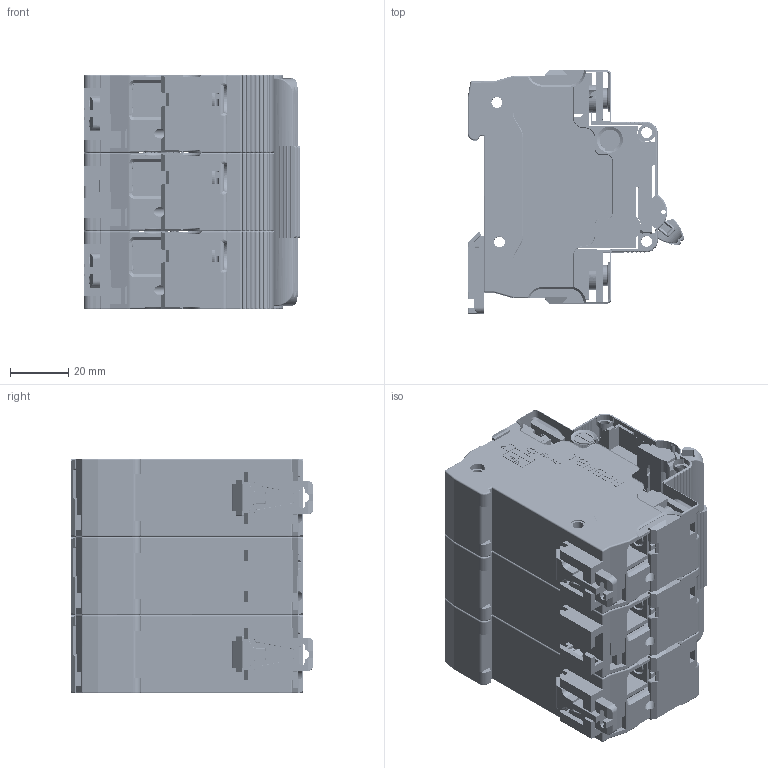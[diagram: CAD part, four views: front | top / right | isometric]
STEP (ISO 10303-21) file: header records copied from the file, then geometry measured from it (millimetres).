
FILE_DESCRIPTION (( 'STEP AP214' ), '1' );
FILE_NAME ('TGB1N-125 3P.STEP', '2025-12-15T13:42:08', ( '' ), ( '' ), 'SwSTEP 2.0', 'SolidWorks 2024', '' );
FILE_SCHEMA (( 'AUTOMOTIVE_DESIGN' ));
Length unit declared in the file: millimetre
Products named in the file (8): TGB1N-125 3P.stp; TGB1N-1253P_SW0001_4.stp; TGB1N-1253P_SW0001_2.stp; TGB1N-125 3P; TGB1N-1253P_SW0001_6.stp; TGB1N-1253P_SW0001_1.stp; TGB1N-1253P_SW0001_5.stp; TGB1N-1253P_SW0001_3.stp
Assembly tree (7 placements, depth 3):
  TGB1N-125 3P
    TGB1N-125 3P.stp
      TGB1N-1253P_SW0001_1.stp
      TGB1N-1253P_SW0001_2.stp
      TGB1N-1253P_SW0001_3.stp
      TGB1N-1253P_SW0001_4.stp
      TGB1N-1253P_SW0001_5.stp
      TGB1N-1253P_SW0001_6.stp
Bounding box: 74.69 x 83.73 x 81 mm (x, y, z)
Volume: 3283.5 mm3; surface area: 125851.3 mm2
Topology: 5 solids, 6 shells, 9203 faces, 25840 edges, 16632 vertices
Faces by surface type: plane 6578, cylinder 1563, bspline 496, torus 286, cone 251, sphere 29
Entity records: 316091 total; most frequent: CARTESIAN_POINT 85058, ORIENTED_EDGE 51406, DIRECTION 43076, EDGE_CURVE 25703, VECTOR 18684, LINE 18684, VERTEX_POINT 16596, AXIS2_PLACEMENT_3D 12196
